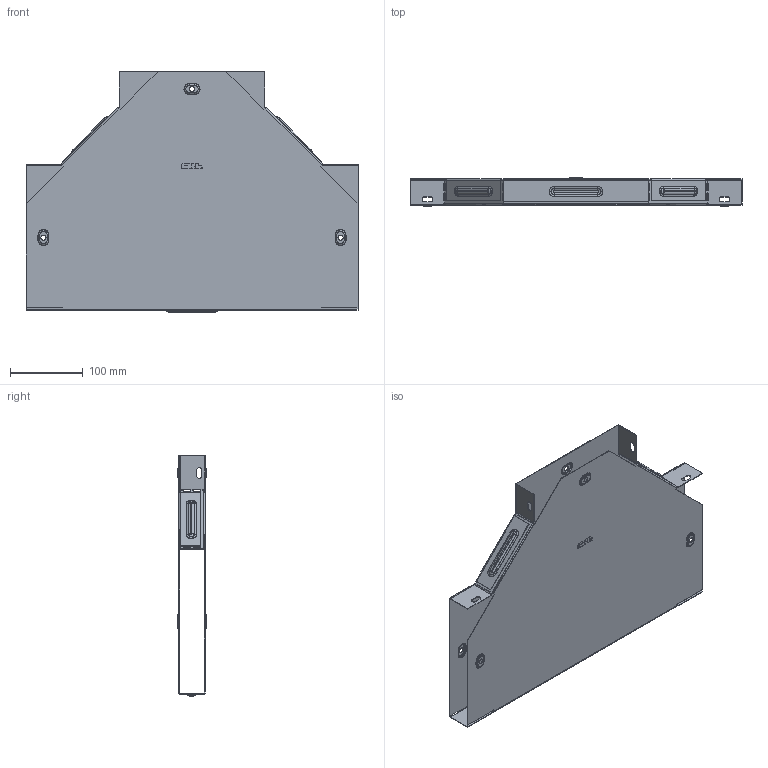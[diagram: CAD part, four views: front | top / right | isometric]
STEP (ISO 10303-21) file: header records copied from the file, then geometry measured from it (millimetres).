
FILE_DESCRIPTION (( 'STEP AP214' ), '1' );
FILE_NAME ('t3520008_捘.STEP', '2019-06-10T08:06:24', ( '砐錪賧瘔蠈錪 Windows' ), ( '' ), 'SwSTEP 2.0', 'SolidWorks 2018', '' );
FILE_SCHEMA (( 'AUTOMOTIVE_DESIGN' ));
Length unit declared in the file: millimetre
Products named in the file (1): t3520008_捘
Bounding box: 456.4 x 38.8 x 331 mm (x, y, z)
Volume: 228390.5 mm3; surface area: 574584.2 mm2
Topology: 2 solids, 2 shells, 594 faces, 1602 edges, 1032 vertices
Faces by surface type: plane 310, cylinder 170, torus 96, bspline 18
Entity records: 19659 total; most frequent: CARTESIAN_POINT 4309, ORIENTED_EDGE 3204, DIRECTION 3204, EDGE_CURVE 1602, VECTOR 1082, LINE 1082, AXIS2_PLACEMENT_3D 1061, VERTEX_POINT 1032
